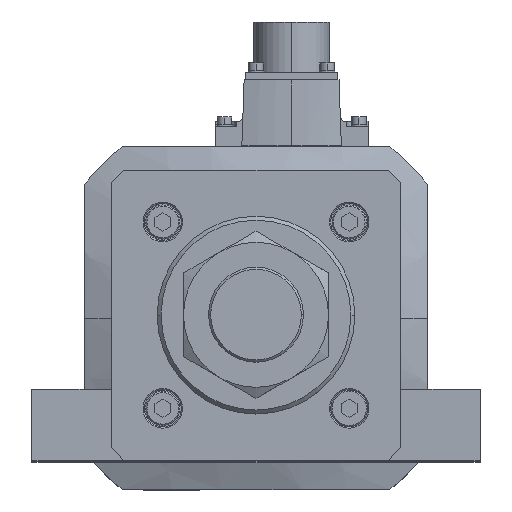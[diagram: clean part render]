
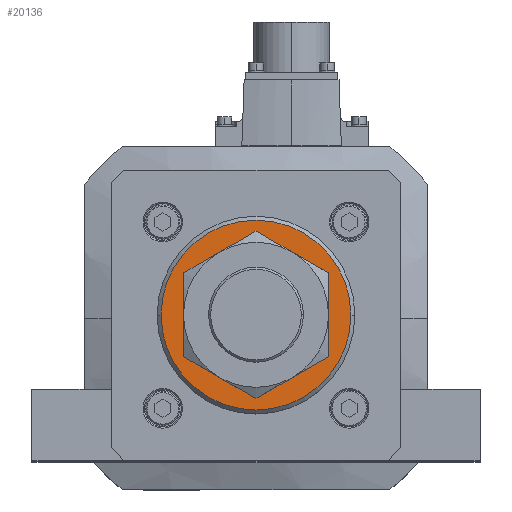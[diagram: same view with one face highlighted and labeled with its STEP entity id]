
A CAD part, top view. The second image highlights one B-rep face of the part: STEP entity #20136.
In plain terms, the highlighted planar face has unit normal (0, 0, 1).
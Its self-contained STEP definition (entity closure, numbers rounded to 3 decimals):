
#1420 = DIRECTION ( 'NONE',  ( 1., 0., 0. ) ) ;
#2800 = ORIENTED_EDGE ( 'NONE', *, *, #13219, .T. ) ;
#2908 = ORIENTED_EDGE ( 'NONE', *, *, #14872, .T. ) ;
#3054 = DIRECTION ( 'NONE',  ( 0., 0., 1. ) ) ;
#4164 = EDGE_CURVE ( 'NONE', #13737, #22517, #8671, .T. ) ;
#4332 = CIRCLE ( 'NONE', #22119, 36. ) ;
#7298 = DIRECTION ( 'NONE',  ( 1., 0., 0. ) ) ;
#7573 = CARTESIAN_POINT ( 'NONE',  ( 0., 0., 396. ) ) ;
#8671 = CIRCLE ( 'NONE', #10849, 23. ) ;
#10053 = AXIS2_PLACEMENT_3D ( 'NONE', #33615, #19185, #7298 ) ;
#10834 = FACE_OUTER_BOUND ( 'NONE', #28237, .T. ) ;
#10849 = AXIS2_PLACEMENT_3D ( 'NONE', #7573, #25102, #1420 ) ;
#11269 = DIRECTION ( 'NONE',  ( 1., 0., 0. ) ) ;
#11277 = CARTESIAN_POINT ( 'NONE',  ( 0., 0., 396. ) ) ;
#11551 = DIRECTION ( 'NONE',  ( 1., 0., 0. ) ) ;
#12637 = AXIS2_PLACEMENT_3D ( 'NONE', #23233, #29085, #11551 ) ;
#13219 = EDGE_CURVE ( 'NONE', #21181, #34564, #4332, .T. ) ;
#13737 = VERTEX_POINT ( 'NONE', #22892 ) ;
#14872 = EDGE_CURVE ( 'NONE', #22517, #13737, #15584, .T. ) ;
#15257 = EDGE_CURVE ( 'NONE', #34564, #21181, #22433, .T. ) ;
#15584 = CIRCLE ( 'NONE', #28048, 23. ) ;
#17667 = CARTESIAN_POINT ( 'NONE',  ( 0., 0., 396. ) ) ;
#19185 = DIRECTION ( 'NONE',  ( 0., 0., 1. ) ) ;
#19262 = CARTESIAN_POINT ( 'NONE',  ( -36., 0., 396. ) ) ;
#19357 = CARTESIAN_POINT ( 'NONE',  ( 36., 0., 396. ) ) ;
#20136 = ADVANCED_FACE ( 'NONE', ( #31407, #10834 ), #20258, .T. ) ;
#20258 = PLANE ( 'NONE',  #12637 ) ;
#21181 = VERTEX_POINT ( 'NONE', #19262 ) ;
#22119 = AXIS2_PLACEMENT_3D ( 'NONE', #17667, #3054, #11269 ) ;
#22433 = CIRCLE ( 'NONE', #10053, 36. ) ;
#22517 = VERTEX_POINT ( 'NONE', #36272 ) ;
#22765 = ORIENTED_EDGE ( 'NONE', *, *, #4164, .T. ) ;
#22892 = CARTESIAN_POINT ( 'NONE',  ( 23., 0., 396. ) ) ;
#23233 = CARTESIAN_POINT ( 'NONE',  ( 0., 0., 396. ) ) ;
#23328 = DIRECTION ( 'NONE',  ( 0., 0., -1. ) ) ;
#25102 = DIRECTION ( 'NONE',  ( 0., 0., -1. ) ) ;
#27420 = ORIENTED_EDGE ( 'NONE', *, *, #15257, .T. ) ;
#28048 = AXIS2_PLACEMENT_3D ( 'NONE', #11277, #23328, #32089 ) ;
#28237 = EDGE_LOOP ( 'NONE', ( #2800, #27420 ) ) ;
#29085 = DIRECTION ( 'NONE',  ( 0., 0., 1. ) ) ;
#31407 = FACE_BOUND ( 'NONE', #31438, .T. ) ;
#31438 = EDGE_LOOP ( 'NONE', ( #22765, #2908 ) ) ;
#32089 = DIRECTION ( 'NONE',  ( 1., 0., 0. ) ) ;
#33615 = CARTESIAN_POINT ( 'NONE',  ( 0., 0., 396. ) ) ;
#34564 = VERTEX_POINT ( 'NONE', #19357 ) ;
#36272 = CARTESIAN_POINT ( 'NONE',  ( -23., 0., 396. ) ) ;
